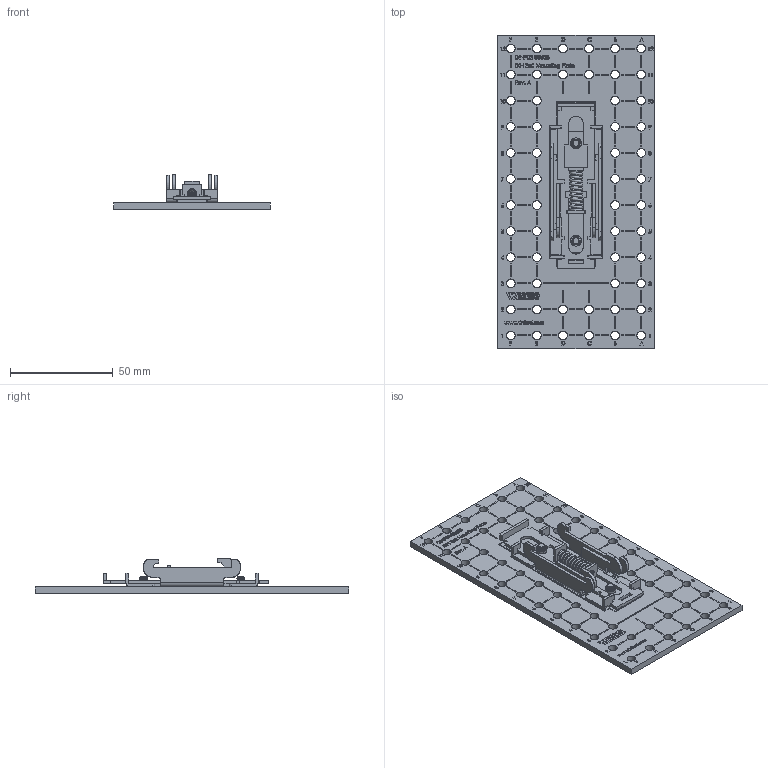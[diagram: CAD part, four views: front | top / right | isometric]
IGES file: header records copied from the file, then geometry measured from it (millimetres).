
Start section: SolidWorks IGES file using analytic representation for surfaces
Global section: file name: D:\Documents\Winford Engineering Jobs\Din Plate 02\Dinp02-3060B\dinp02-3060b_rev_a.igs; native system: SolidWorks 2017; preprocessor: SolidWorks 2017; author: mudhf; date: 200426.210751; units: inch
Bounding box: 76.2 x 152.4 x 16.98 mm (x, y, z)
Surface area: 35143.9 mm2 (no closed solid volume)
Topology: 0 solids, 0 shells, 3478 faces, 24687 edges, 24675 vertices
Faces by surface type: bspline 3068, revolution 410
